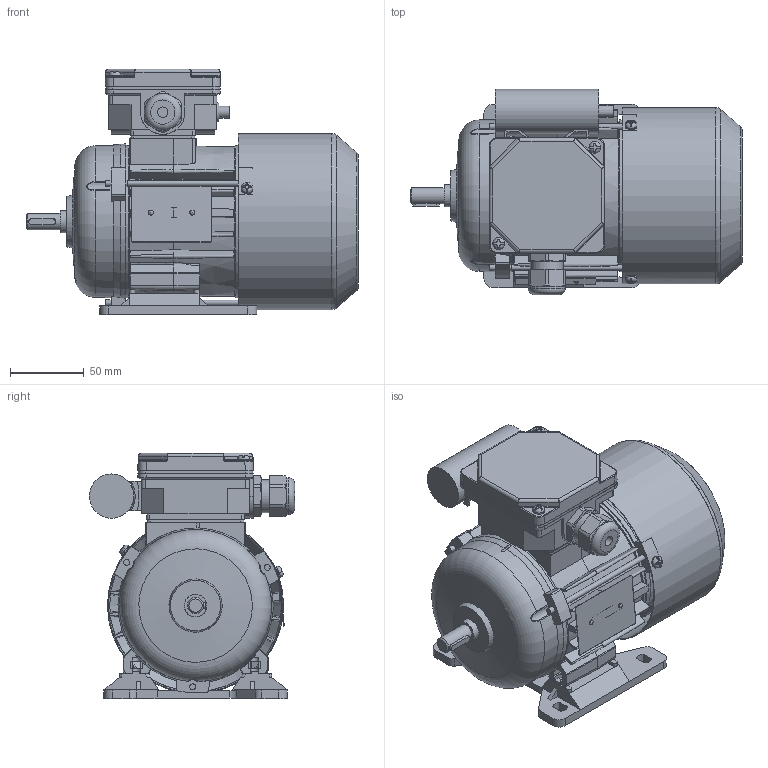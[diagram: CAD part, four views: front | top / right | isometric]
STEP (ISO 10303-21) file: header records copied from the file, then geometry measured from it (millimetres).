
FILE_DESCRIPTION(/* description */ ('Unknown'),/* implementation_level */ '2;1');
FILE_NAME(/* name */ '3SSIE63-4A',/* time_stamp */ '2024-06-17T08:54:55+02:00',/* author */ ('Unknown'),/* organization */ ('Unknown'),/* preprocessor_version */ 'ST-DEVELOPER v16.7',/* originating_system */ 'Solid Edge',/* authorisation */ 'Unknown');
FILE_SCHEMA (('AUTOMOTIVE_DESIGN {1 0 10303 214 3 1 1}'));
Length unit declared in the file: millimetre
Products named in the file (1): Czêœæ1
Bounding box: 224.49 x 138.82 x 166 mm (x, y, z)
Volume: 583939.3 mm3; surface area: 345061.5 mm2
Topology: 3 solids, 3 shells, 2046 faces, 5811 edges, 3783 vertices
Faces by surface type: plane 1052, cylinder 572, torus 149, cone 144, bspline 108, sphere 21
Full cylindrical faces by diameter (mm): 2.4 x2, 3 x1, 3.7 x7, 4 x8, 4.5 x5, 4.6 x1, 4.8 x2, 5 x2, 5.8 x4, 6.5 x1, 7 x4, 7.999 x1, 8 x6, 10.999 x1, 12.899 x1, 13.099 x1, 14.998 x2, 15.4 x2, 18.998 x2, 19.498 x1, 19.998 x1, 20.098 x1, 21.518 x4, 22.3 x1, 25 x1, 28 x2, 28.48 x4, 29.997 x1, 31 x2, 32 x1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
Entity records: 83189 total; most frequent: CARTESIAN_POINT 17778, ORIENTED_EDGE 10996, DIRECTION 10135, EDGE_CURVE 5498, AXIS2_PLACEMENT_3D 3726, VERTEX_POINT 3665, LINE 2683, VECTOR 2683
